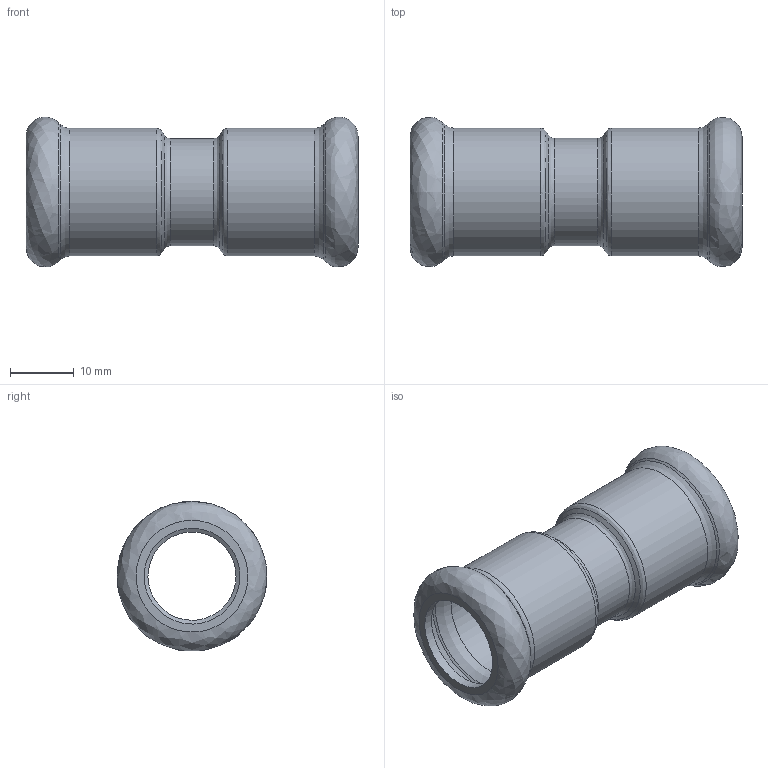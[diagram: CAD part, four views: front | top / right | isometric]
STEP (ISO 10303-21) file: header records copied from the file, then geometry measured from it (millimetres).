
FILE_DESCRIPTION(('FreeCAD Model'),'2;1');
FILE_NAME('Open CASCADE Shape Model','2025-10-20T14:59:00',('Author'),( ''),'Open CASCADE STEP processor 7.8','FreeCAD','Unknown');
FILE_SCHEMA(('AUTOMOTIVE_DESIGN { 1 0 10303 214 1 1 1 1 }'));
Length unit declared in the file: millimetre
Products named in the file (1): Solido1
Bounding box: 52 x 23.38 x 23.44 mm (x, y, z)
Volume: 4905.8 mm3; surface area: 6859.4 mm2
Topology: 1 solids, 1 shells, 32 faces, 114 edges, 86 vertices
Faces by surface type: bspline 32
Entity records: 1786 total; most frequent: CARTESIAN_POINT 1205, ORIENTED_EDGE 228, EDGE_CURVE 114, VERTEX_POINT 86, FACE_BOUND 36, EDGE_LOOP 36, ADVANCED_FACE 32, B_SPLINE_CURVE_WITH_KNOTS 16
